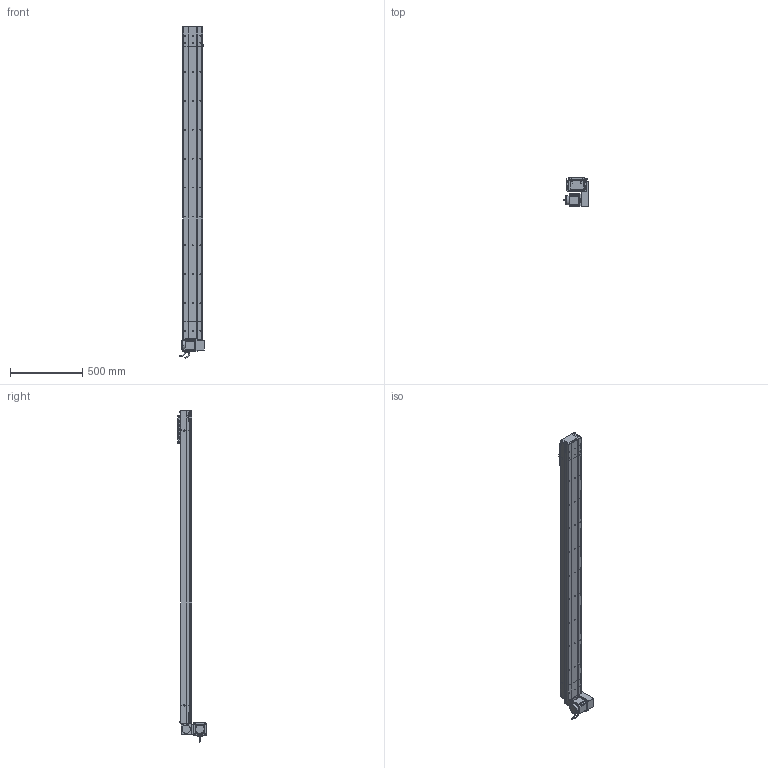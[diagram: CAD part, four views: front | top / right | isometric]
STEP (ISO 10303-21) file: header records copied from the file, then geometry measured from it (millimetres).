
FILE_DESCRIPTION (( 'STEP AP214' ), '1' );
FILE_NAME ('D14 CBH S1900 LU.STEP', '2010-06-30T07:06:25', ( 'Conseil Régional Haute-Normandie' ), ( 'Conseil Régional Haute-Normandie' ), 'SwSTEP 2.0', 'SolidWorks 2010', '' );
FILE_SCHEMA (( 'AUTOMOTIVE_DESIGN' ));
Length unit declared in the file: millimetre
Products named in the file (28): corps GMB 90 70 310; avant GMB 90 70 310; GMB 90 70 310; Conecteur_Default; Conecteur2_Default; codeur GMB 90 70 310; Support moteur Head D14 CBH; plaque fermeture Head D14 CBH; Vis CHC M8; plaque de maintient CBH D14; corps CBH S1900; Course CBH S1900; D14 CBH S1900 LU; charriot inférieur D14; chariot D14; couvercle CBH S1900; Tail CBH D14 A; vis CHC M5; chariot supérieur D14; couvercle tail CBH D14; plaque de bout tail CBH d14; corps tail  CBH d14 A; corps Head D14 CBH; Head D14 CBH; Head D14 CBH LU; couvercle Head D14 CBH; vis CHC M7; plaque de bout Head D14 CBH
Assembly tree (51 placements, depth 4):
  D14 CBH S1900 LU
    Tail CBH D14 A
      Vis CHC M8  x2
      vis CHC M7  x4
      corps tail  CBH d14 A
      plaque de bout tail CBH d14
      couvercle tail CBH D14
      plaque de maintient CBH D14
    chariot D14
      vis CHC M7  x8
      vis CHC M5  x4
      chariot supérieur D14
      charriot inférieur D14
    Course CBH S1900
      corps CBH S1900
      couvercle CBH S1900
    Head D14 CBH LU
      Head D14 CBH
        vis CHC M7  x4
        corps Head D14 CBH
        plaque de maintient CBH D14
        Vis CHC M8  x2
        couvercle Head D14 CBH
        plaque de bout Head D14 CBH
      plaque fermeture Head D14 CBH  x3
      Support moteur Head D14 CBH
      GMB 90 70 310
        Conecteur_Default
        codeur GMB 90 70 310
        Conecteur2_Default
        corps GMB 90 70 310
        avant GMB 90 70 310
Bounding box: 171.5 x 195.75 x 2295.95 mm (x, y, z)
Volume: 6666139.6 mm3; surface area: 2201424.1 mm2
Topology: 51 solids, 51 shells, 2492 faces, 6448 edges, 4236 vertices
Faces by surface type: plane 1371, bspline 538, cylinder 470, torus 61, cone 48, sphere 4
Entity records: 110389 total; most frequent: CARTESIAN_POINT 58354, ORIENTED_EDGE 11192, DIRECTION 8519, EDGE_CURVE 5596, VECTOR 3701, LINE 3701, VERTEX_POINT 3700, AXIS2_PLACEMENT_3D 2409
